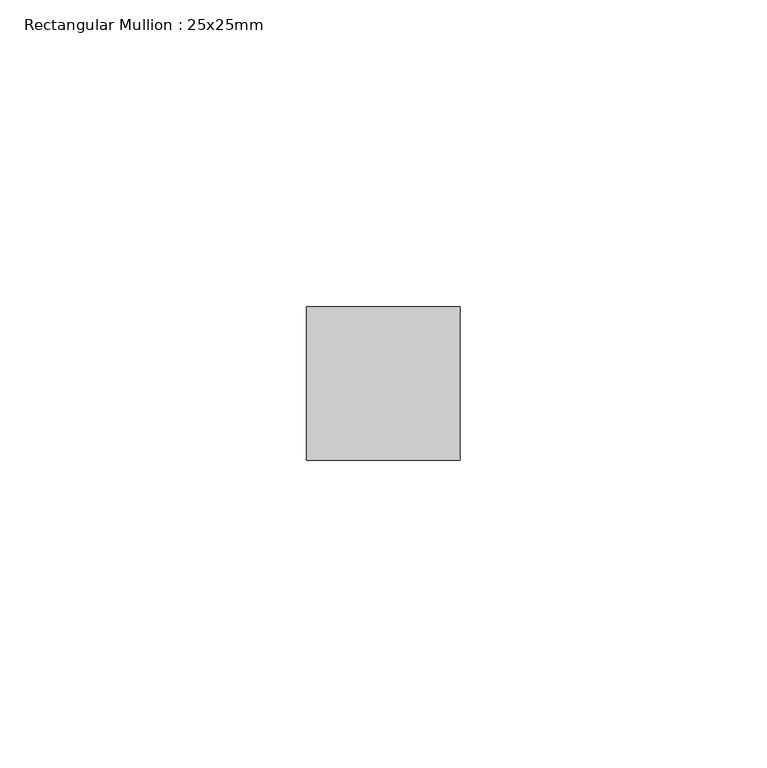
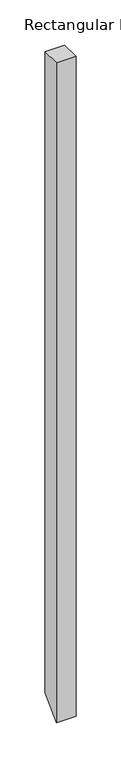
"""IFC4 building model written with IfcOpenShell, lengths in millimetres: member geometry, Rectangular Mullion : 25x25mm."""

from ifc_helpers import new_model, si_unit, frame, origin, place, context, project, spatial, polyline, outline, extrude, source, transform, mapped, element, save


def rectangular_mullion_25x25mm_76bd89fd(model_context):
    return source(origin(), model_context, "Body", "SweptSolid", [
        extrude(outline(polyline([(-24.5, 0.0), (0.5, 0.0), (0.5, -865.2500002), (-24.5, -890.2500002), (-24.5, 0.0)])), frame((-25.0, 0.0, 0.0), z_axis=(1.0, 0.0, 0.0), x_axis=(0.0, 1.0, 0.0)), (0.0, 0.0, 1.0), 25.0),
    ])


if __name__ == "__main__":
    model = new_model("IFC4")
    model_context = context("Model", 3, world=origin())
    ifc_project = project(units=[si_unit("LENGTHUNIT", "METRE", prefix="MILLI")], contexts=[model_context])
    site = spatial("IfcSite", under=ifc_project)
    building = spatial("IfcBuilding", under=site)
    placement = place(None, origin())
    rectangular_mullion_25x25mm_shape = rectangular_mullion_25x25mm_76bd89fd(model_context)
    element("IfcMember", 1, ObjectType="Rectangular Mullion : 25x25mm", at=placement, inside=building, context=model_context, shape_type="MappedRepresentation", body=[
        mapped(rectangular_mullion_25x25mm_shape, transform((0.0, 0.0, 0.0), x_axis=(1.0, 0.0, 0.0), y_axis=(0.0, 1.0, 0.0), z_axis=(0.0, 0.0, 1.0))),
    ])
    save(model, "model.ifc")
